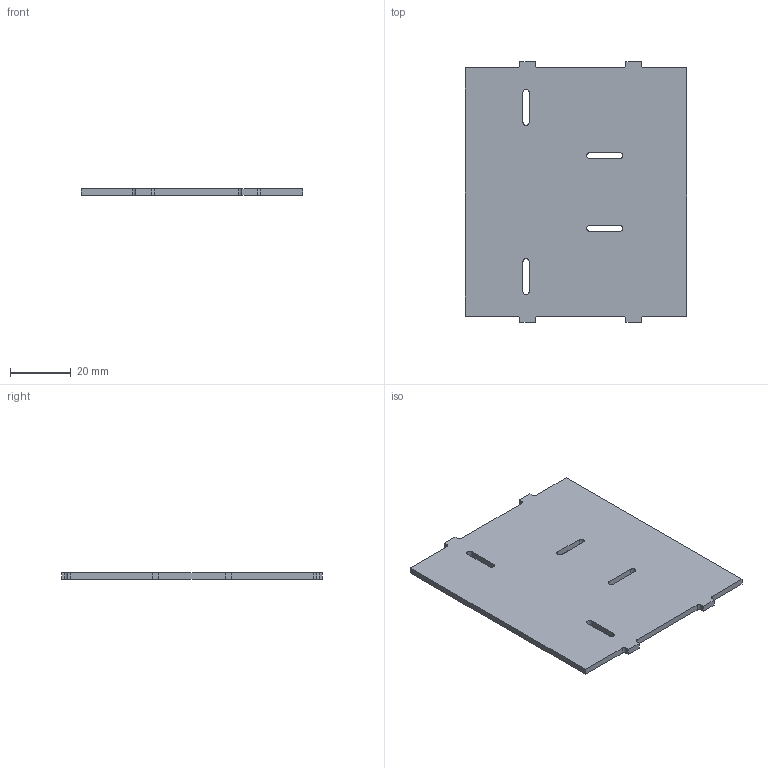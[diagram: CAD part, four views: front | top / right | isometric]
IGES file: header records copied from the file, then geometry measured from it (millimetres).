
Start section: START RECORD GO HERE.
Global section: file name: FR_10001_3 (Frame Brake).igs; native system: IBM CATIA IGES - CATIA Version 5 Release 19 ; preprocessor: CATIA Version 5 Release 19 ; author: jacqu; organization: ASUS-TUF-JACQUE; date: 20200226.092236; units: millimetre
Bounding box: 73 x 86 x 2 mm (x, y, z)
Surface area: 12725.7 mm2 (no closed solid volume)
Topology: 0 solids, 0 shells, 54 faces, 312 edges, 312 vertices
Faces by surface type: plane 38, revolution 16
